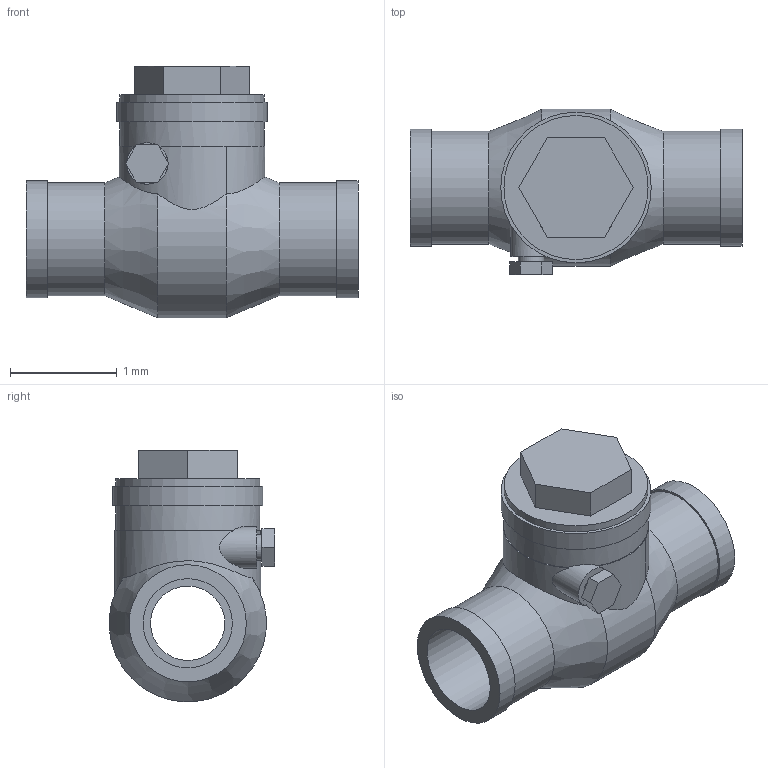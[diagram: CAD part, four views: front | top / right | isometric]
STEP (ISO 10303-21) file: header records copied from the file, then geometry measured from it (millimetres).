
FILE_DESCRIPTION(('Open CASCADE Model'),'2;1');
FILE_NAME('Open CASCADE Shape Model','2022-05-11T14:13:58',('Author'),( 'Open CASCADE'),'Open CASCADE STEP processor 7.3','Open CASCADE 7.3' ,'Unknown');
FILE_SCHEMA(('AUTOMOTIVE_DESIGN { 1 0 10303 214 1 1 1 1 }'));
Length unit declared in the file: millimetre
Products named in the file (1): Open CASCADE STEP translator 7.3 1
Bounding box: 3.11 x 1.55 x 2.35 mm (x, y, z)
Volume: 3.5 mm3; surface area: 26.1 mm2
Topology: 1 solids, 1 shells, 42 faces, 93 edges, 62 vertices
Faces by surface type: plane 26, cylinder 14, cone 2
Full cylindrical faces by diameter (mm): 0.24 x1, 0.388 x1, 0.696 x1, 0.836 x2, 1.058 x2, 1.097 x2, 1.35 x2, 1.365 x1, 1.41 x1
Entity records: 3297 total; most frequent: CARTESIAN_POINT 1405, DIRECTION 342, ORIENTED_EDGE 186, PCURVE 186, DEFINITIONAL_REPRESENTATION 186, LINE 180, VECTOR 180, EDGE_CURVE 93
